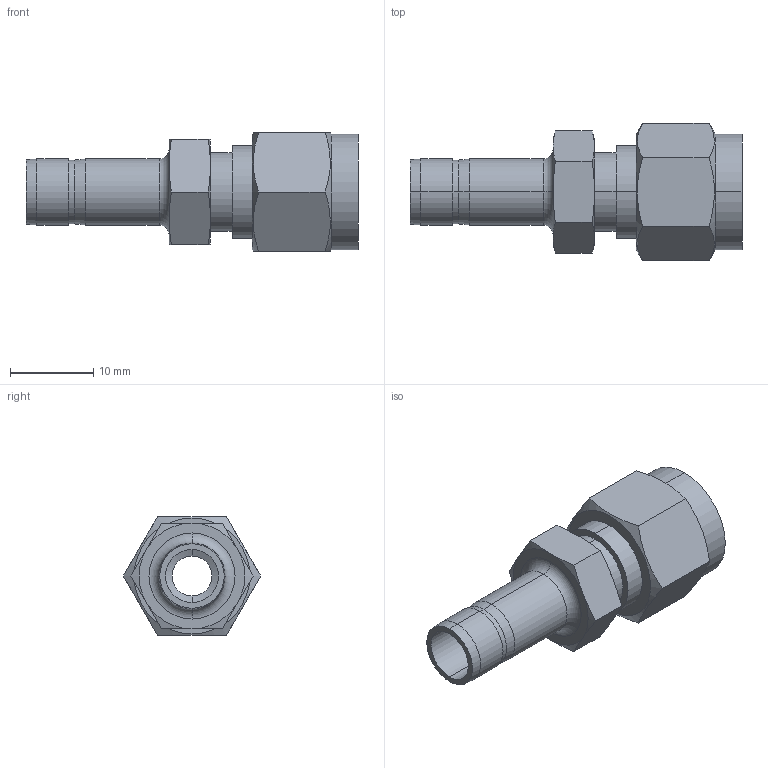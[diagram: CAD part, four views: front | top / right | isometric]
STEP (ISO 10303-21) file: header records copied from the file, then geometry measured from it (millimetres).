
FILE_DESCRIPTION (( 'STEP AP203' ), '1' );
FILE_NAME ('DRE04-05 SS.STEP', '2009-09-08T08:37:28', ( ' ' ), ( '' ), 'SwSTEP 2.0', 'SolidWorks 2008', '' );
FILE_SCHEMA (( 'CONFIG_CONTROL_DESIGN' ));
Length unit declared in the file: millimetre
Products named in the file (1): DRE04-05 SS
Bounding box: 39.9 x 16.5 x 14.29 mm (x, y, z)
Volume: 2934.1 mm3; surface area: 2593.9 mm2
Topology: 1 solids, 1 shells, 63 faces, 138 edges, 82 vertices
Faces by surface type: cone 24, plane 19, cylinder 18, torus 2
Entity records: 1917 total; most frequent: CARTESIAN_POINT 492, DIRECTION 282, ORIENTED_EDGE 276, EDGE_CURVE 138, AXIS2_PLACEMENT_3D 120, VERTEX_POINT 82, EDGE_LOOP 70, ADVANCED_FACE 63
